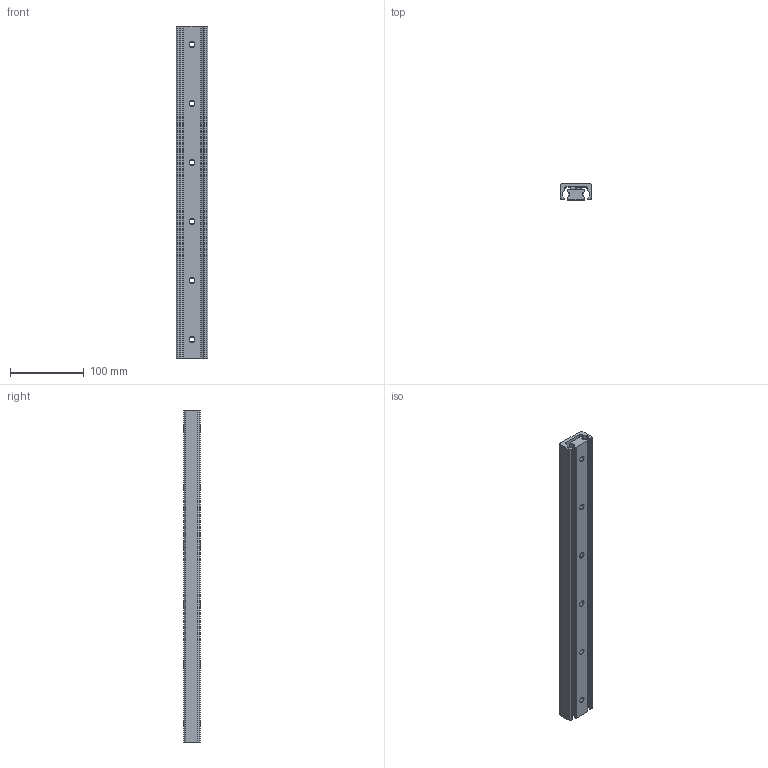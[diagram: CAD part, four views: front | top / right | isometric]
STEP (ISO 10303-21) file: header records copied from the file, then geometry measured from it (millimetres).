
FILE_DESCRIPTION(('STEP AP214'),'1');
FILE_NAME('rail_asn43-450_00.stp','2017-06-06T10:15:35',('TraceParts'),('TraceParts S.A.'),'Spatial InterOp 3D',' ',' ');
FILE_SCHEMA(('automotive_design'));
Length unit declared in the file: millimetre
Products named in the file (2): rail_asn43-450_00_1; rail_asn43-450_00_2
Bounding box: 43 x 22.01 x 450 mm (x, y, z)
Volume: 274011.1 mm3; surface area: 107076.5 mm2
Topology: 2 solids, 2 shells, 137 faces, 348 edges, 220 vertices
Faces by surface type: cylinder 55, plane 46, cone 36
Entity records: 4218 total; most frequent: DIRECTION 772, CARTESIAN_POINT 707, ORIENTED_EDGE 696, EDGE_CURVE 348, AXIS2_PLACEMENT_3D 285, VERTEX_POINT 220, LINE 202, VECTOR 202
